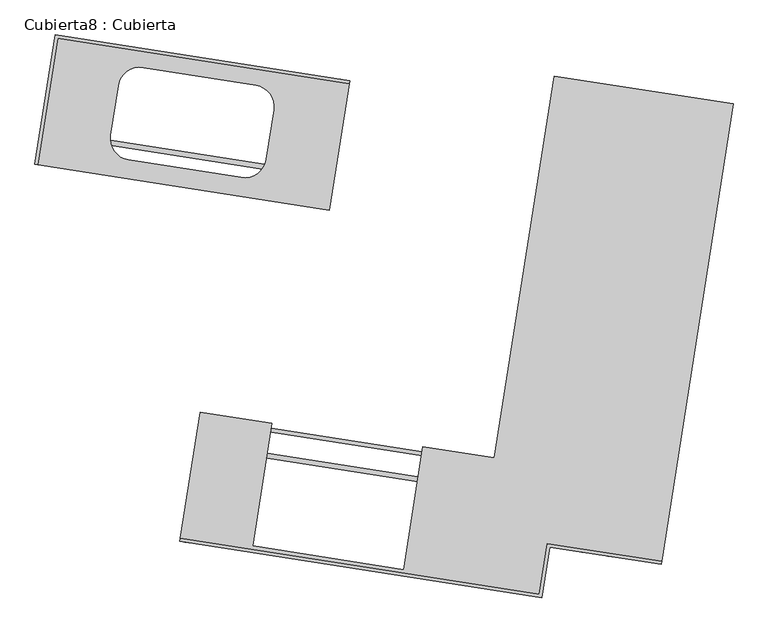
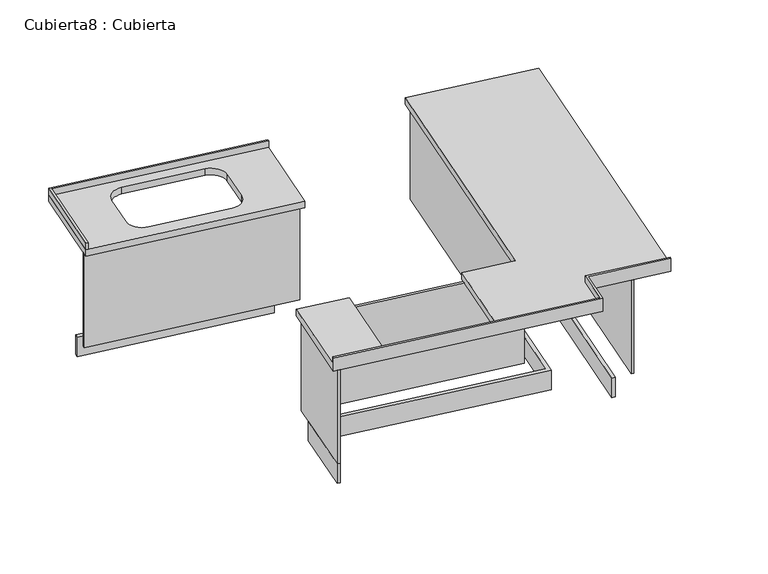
"""IFC4 building model written with IfcOpenShell, lengths in millimetres: furniture geometry, Cubierta8 : Cubierta."""

from ifc_helpers import new_model, si_unit, frame, origin, place, context, project, spatial, polyline, circle_curve, outline, extrude, faceted_brep, source, transform, mapped, element, save
from ifc_brep_helpers import plane_surface, revolved_surface, advanced_brep


def cubierta8_cubierta_c1517432(model_context):
    return source(origin(), model_context, "Body", "SolidModel", [
        extrude(outline(polyline([(-34723.2848531, -75304.3040868), (-34738.1058927, -75301.9939387), (-34637.9994748, -74659.7488879), (-33175.6568979, -74887.6835011), (-33177.967046, -74902.5045407), (-34625.4885832, -74676.8800757), (-34723.2848531, -75304.3040868)])), frame((0.0, 0.0, 4120.0), z_axis=(0.0, 0.0, 1.0), x_axis=(1.0, 0.0, 0.0)), (0.0, 0.0, 1.0), 50.0),
        extrude(outline(polyline([(-34715.0044116, -75153.7835423), (-34711.1541648, -75129.0818096), (-33421.7237031, -75330.064697), (-33348.5690131, -74860.7317754), (-33323.8672804, -74864.5820222), (-33400.8722173, -75358.6166765), (-34715.0044116, -75153.7835423)])), frame((0.0, 0.0, 3200.0), z_axis=(0.0, 0.0, 1.0), x_axis=(1.0, 0.0, 0.0)), (0.0, 0.0, 1.0), 150.0),
        extrude(outline(polyline([(-34734.2556458, -75277.2922059), (-34731.1754484, -75257.5308197), (-33313.2959766, -75478.5349907), (-33220.120003, -74880.753059), (-33200.3586168, -74883.8332564), (-33296.6147879, -75501.3765743), (-34734.2556458, -75277.2922059)])), frame((0.0, 0.0, 3350.0), z_axis=(0.0, 0.0, 1.0), x_axis=(1.0, 0.0, 0.0)), (0.0, 0.0, 1.0), 720.0),
        extrude(outline(polyline([(-31664.2309062, -75092.9064872), (-31997.6622687, -77232.0764487), (-32022.3640015, -77228.2262019), (-31692.7828858, -75113.757973), (-32013.9054072, -75063.7047647), (-32309.6043632, -76960.7978276), (-33900.3959544, -76712.8419302), (-33973.5506444, -77182.1748518), (-33993.3120306, -77179.0946543), (-33916.3070937, -76685.06), (-32330.455849, -76932.245848), (-32034.7568931, -75035.1527851), (-31664.2309062, -75092.9064872)])), frame((0.0, 0.0, 3200.0), z_axis=(0.0, 0.0, 1.0), x_axis=(1.0, 0.0, 0.0)), (0.0, 0.0, 1.0), 150.0),
        extrude(outline(polyline([(-32139.0143225, -74892.3928873), (-31521.4710084, -74988.6490578), (-31874.1536053, -77251.3276836), (-31893.9149914, -77248.2474862), (-31544.3125921, -75005.3302465), (-32122.3331338, -74915.2344709), (-32418.0320897, -76812.3275339), (-33880.3746708, -76584.39292), (-33973.5506444, -77182.1748518), (-33993.3120306, -77179.0946543), (-33897.0558595, -76561.5513364), (-32434.7132784, -76789.4859502), (-32139.0143225, -74892.3928873)])), frame((0.0, 0.0, 3350.0), z_axis=(0.0, 0.0, 1.0), x_axis=(1.0, 0.0, 0.0)), (0.0, 0.0, 1.0), 720.0),
        faceted_brep([(-31270.6034361, -75002.4498036, 4120.0), (-32159.8658099, -74863.8409179, 4120.0), (-32455.5647643, -76760.9339706, 4120.0), (-32811.2697176, -76705.4904158, 4120.0), (-32906.2529889, -77314.867289, 4120.0), (-33657.1856635, -77197.819785, 4120.0), (-33562.2023922, -76588.4429117, 4120.0), (-33917.9073454, -76532.9993568, 4120.0), (-34015.7036152, -77160.4233678, 4120.0), (-32232.2385244, -77438.4111882, 4120.0), (-32192.9659937, -77186.4534315, 4120.0), (-31624.8261302, -77275.0091139, 4120.0), (-32219.7276329, -77455.542376, 4070.0), (-34018.0137633, -77175.2444075, 4070.0), (-33917.9073454, -76532.9993568, 4070.0), (-33562.2023922, -76588.4429117, 4070.0), (-33657.1856635, -77197.819785, 4070.0), (-32906.2529889, -77314.867289, 4070.0), (-32811.2697176, -76705.4904158, 4070.0), (-32455.5647643, -76760.9339706, 4070.0), (-32159.8658099, -74863.8409179, 4070.0), (-31270.6034361, -75002.4498036, 4070.0), (-31627.136278, -77289.8301519, 4070.0), (-32180.4551024, -77203.5846209, 4070.0), (-31624.8261302, -77275.0091139, 4170.0), (-31627.1362784, -77289.8301535, 4170.0), (-32232.2385244, -77438.4111882, 4170.0), (-34015.7036152, -77160.4233678, 4170.0), (-32219.7276329, -77455.5423759, 4170.0), (-34018.0137633, -77175.2444075, 4170.0), (-32192.9659937, -77186.4534315, 4170.0), (-32180.4551022, -77203.5846193, 4170.0)], [[[0, 1, 2, 3, 4, 5, 6, 7, 8, 9, 10, 11]], [[12, 13, 14, 15, 16, 17, 18, 19, 20, 21, 22, 23]], [[22, 21, 0, 11, 24, 25]], [[26, 9, 8, 27]], [[28, 29, 13, 12]], [[27, 8, 7, 14, 13, 29]], [[3, 2, 19, 18]], [[2, 1, 20, 19]], [[1, 0, 21, 20]], [[7, 6, 15, 14]], [[6, 5, 16, 15]], [[5, 4, 17, 16]], [[4, 3, 18, 17]], [[25, 24, 30, 26, 27, 29, 28, 31]], [[24, 11, 10, 30]], [[22, 25, 31, 23]], [[9, 26, 30, 10]], [[28, 12, 23, 31]]]),
        advanced_brep(
        [(-33275.763302, -75529.928554, 4120.0), (-33175.6568879, -74887.6835278, 4120.0), (-34637.9994786, -74659.7489126, 4120.0), (-34738.1058927, -75301.9939387, 4120.0), (-34322.4831501, -74911.343213, 4120.0), (-34200.2806776, -74822.0988535, 4120.0), (-33642.0215182, -74909.1144322, 4120.0), (-33552.7771587, -75031.3169047, 4120.0), (-33591.2796271, -75278.3342319, 4120.0), (-33713.4820996, -75367.5785914, 4120.0), (-34271.741259, -75280.5630127, 4120.0), (-34360.9856186, -75158.3605402, 4120.0), (-33275.763302, -75529.928554, 4070.0), (-34738.1058927, -75301.9939387, 4070.0), (-34637.9994786, -74659.7489126, 4070.0), (-33175.6568879, -74887.6835278, 4070.0), (-34322.4831501, -74911.343213, 4070.0), (-34360.9856186, -75158.3605402, 4070.0), (-34271.741259, -75280.5630127, 4070.0), (-33713.4820996, -75367.5785914, 4070.0), (-33591.2796271, -75278.3342319, 4070.0), (-33552.7771587, -75031.3169047, 4070.0), (-33642.0215182, -74909.1144322, 4070.0), (-34200.2806776, -74822.0988535, 4070.0)],
        [
            (0, 1),
            (1, 2),
            (2, 3),
            (3, 0),
            (4, 5, circle_curve(frame((-34216.7597341, -74927.8222695, 4120.0), z_axis=(0.0, 0.0, -1.0), x_axis=(0.9880693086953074, -0.15400987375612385, 0.0)), 107.0)),
            (5, 6),
            (6, 7, circle_curve(frame((-33658.5005747, -75014.8378482, 4120.0), z_axis=(0.0, 0.0, -1.0), x_axis=(0.9880693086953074, -0.15400987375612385, 0.0)), 107.0)),
            (7, 8),
            (8, 9, circle_curve(frame((-33697.0030431, -75261.8551754, 4120.0), z_axis=(0.0, 0.0, -1.0), x_axis=(0.9880693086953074, -0.15400987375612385, 0.0)), 107.0)),
            (9, 10),
            (10, 11, circle_curve(frame((-34255.2622026, -75174.8395967, 4120.0), z_axis=(0.0, 0.0, -1.0), x_axis=(0.9880693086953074, -0.15400987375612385, 0.0)), 107.0)),
            (11, 4),
            (12, 13),
            (13, 14),
            (14, 15),
            (15, 12),
            (16, 17),
            (17, 18, circle_curve(frame((-34255.2622026, -75174.8395967, 4070.0), z_axis=(0.0, 0.0, 1.0), x_axis=(0.9880693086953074, -0.15400987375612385, 0.0)), 107.0)),
            (18, 19),
            (19, 20, circle_curve(frame((-33697.0030431, -75261.8551754, 4070.0), z_axis=(0.0, 0.0, 1.0), x_axis=(0.9880693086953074, -0.15400987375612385, 0.0)), 107.0)),
            (20, 21),
            (21, 22, circle_curve(frame((-33658.5005747, -75014.8378482, 4070.0), z_axis=(0.0, 0.0, 1.0), x_axis=(0.9880693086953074, -0.15400987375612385, 0.0)), 107.0)),
            (22, 23),
            (23, 16, circle_curve(frame((-34216.7597341, -74927.8222695, 4070.0), z_axis=(0.0, 0.0, 1.0), x_axis=(0.9880693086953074, -0.15400987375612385, 0.0)), 107.0)),
            (11, 17),
            (16, 4),
            (10, 18),
            (9, 19),
            (8, 20),
            (7, 21),
            (6, 22),
            (5, 23),
            (3, 13),
            (12, 0),
            (2, 14),
            (1, 15),
        ],
        [
            plane_surface(frame((-32219.7276329, -77455.5423759, 4120.0), z_axis=(0.0, 0.0, 1.0), x_axis=(0.15400987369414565, 0.988069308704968, 0.0))),
            plane_surface(frame((-32219.7276329, -77455.5423759, 4070.0), z_axis=(0.0, 0.0, -1.0), x_axis=(-0.15400987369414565, -0.988069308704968, 0.0))),
            plane_surface(frame((-34360.9856186, -75158.3605402, 4120.0), z_axis=(0.9880693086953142, -0.15400987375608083, 0.0), x_axis=(0.0, 0.0, -1.0))),
            revolved_surface(polyline([(-34149.5387865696, -75191.3186531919, 4070.0), (-34149.5387865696, -75191.3186531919, 4120.0)]), (-34255.2622026, -75174.8395967, 3220.0), (0.0, 0.0, -0.9999999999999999)),
            plane_surface(frame((-33713.4820996, -75367.5785914, 4120.0), z_axis=(0.1540098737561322, 0.9880693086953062, 0.0), x_axis=(0.0, 0.0, -1.0))),
            revolved_surface(polyline([(-33591.2796270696, -75278.3342318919, 4070.0), (-33591.2796270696, -75278.3342318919, 4120.0)]), (-33697.0030431, -75261.8551754, 3220.0), (0.0, 0.0, -0.9999999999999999)),
            plane_surface(frame((-33552.7771587, -75031.3169047, 4120.0), z_axis=(-0.9880693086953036, 0.1540098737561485, 0.0), x_axis=(0.0, 0.0, -1.0))),
            revolved_surface(polyline([(-33552.7771586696, -75031.3169046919, 4070.0), (-33552.7771586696, -75031.3169046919, 4120.0)]), (-33658.5005747, -75014.8378482, 3220.0), (0.0, 0.0, -0.9999999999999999)),
            plane_surface(frame((-34200.2806776, -74822.0988535, 4120.0), z_axis=(-0.15400987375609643, -0.9880693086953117, 0.0), x_axis=(0.0, 0.0, -1.0))),
            revolved_surface(polyline([(-34111.0363180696, -74944.30132599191, 4070.0), (-34111.0363180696, -74944.30132599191, 4120.0)]), (-34216.7597341, -74927.8222695, 3220.0), (0.0, 0.0, -0.9999999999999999)),
            plane_surface(frame((-34738.1058927, -75301.9939387, 4120.0), z_axis=(-0.1540098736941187, -0.9880693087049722, 0.0), x_axis=(0.0, 0.0, -1.0))),
            plane_surface(frame((-34637.9994786, -74659.7489126, 4120.0), z_axis=(-0.9880693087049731, 0.15400987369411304, 0.0), x_axis=(0.0, 0.0, -1.0))),
            plane_surface(frame((-33175.6568879, -74887.6835278, 4120.0), z_axis=(0.15400987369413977, 0.988069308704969, 0.0), x_axis=(0.0, 0.0, -1.0))),
            plane_surface(frame((-33275.763302, -75529.928554, 4120.0), z_axis=(0.9880693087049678, -0.15400987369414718, 0.0), x_axis=(0.0, 0.0, -1.0))),
        ],
        [
            (0, [[1, 2, 3, 4], [5, 6, 7, 8, 9, 10, 11, 12]]),
            (1, [[13, 14, 15, 16], [17, 18, 19, 20, 21, 22, 23, 24]]),
            (2, [[-12, 25, -17, 26]]),
            (3, [[-11, 27, -18, -25]]),
            (4, [[-10, 28, -19, -27]]),
            (5, [[-9, 29, -20, -28]]),
            (6, [[-8, 30, -21, -29]]),
            (7, [[-7, 31, -22, -30]]),
            (8, [[-6, 32, -23, -31]]),
            (9, [[-5, -26, -24, -32]]),
            (10, [[-4, 33, -13, 34]]),
            (11, [[-3, 35, -14, -33]]),
            (12, [[-2, 36, -15, -35]]),
            (13, [[-1, -34, -16, -36]]),
        ],
    ),
    ])


if __name__ == "__main__":
    model = new_model("IFC4")
    model_context = context("Model", 3, world=origin())
    ifc_project = project(units=[si_unit("LENGTHUNIT", "METRE", prefix="MILLI")], contexts=[model_context])
    site = spatial("IfcSite", under=ifc_project)
    building = spatial("IfcBuilding", under=site)
    placement = place(None, origin())
    cubierta8_cubierta_shape = cubierta8_cubierta_c1517432(model_context)
    element("IfcFurniture", 1, ObjectType="Cubierta8 : Cubierta", at=placement, inside=building, context=model_context, shape_type="MappedRepresentation", body=[
        mapped(cubierta8_cubierta_shape, transform((0.0, 0.0, 0.0), x_axis=(1.0, 0.0, 0.0), y_axis=(0.0, 1.0, 0.0), z_axis=(0.0, 0.0, 1.0))),
    ])
    save(model, "model.ifc")
